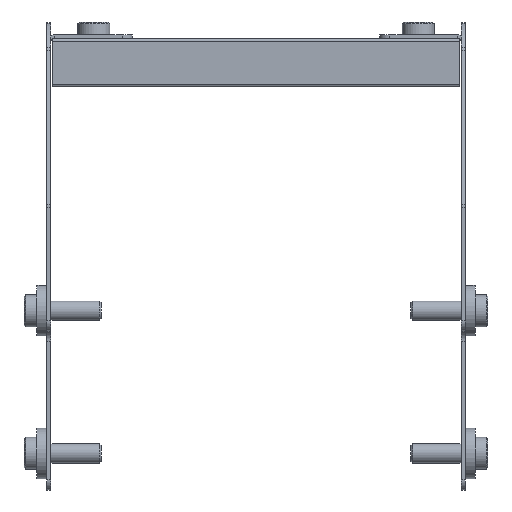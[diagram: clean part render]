
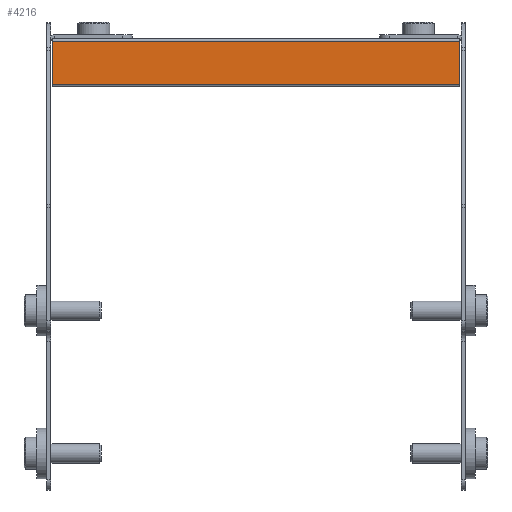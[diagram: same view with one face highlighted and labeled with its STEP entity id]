
A CAD part, front view. The second image highlights one B-rep face of the part: STEP entity #4216.
In plain terms, the highlighted planar face has unit normal (0, -1, 0) as drawn and (1, 0, 0) by its records, which use the part's own axes.
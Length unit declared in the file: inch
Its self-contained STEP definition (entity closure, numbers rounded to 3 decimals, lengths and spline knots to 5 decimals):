
#2733=DIRECTION('',(0.,-1.,0.));
#2734=VECTOR('',#2733,0.53055);
#2735=CARTESIAN_POINT('',(0.78127,0.26528,-2.5));
#2736=LINE('',#2735,#2734);
#3110=DIRECTION('',(0.,0.,1.));
#3111=VECTOR('',#3110,5.);
#3112=CARTESIAN_POINT('',(0.78127,-0.26528,-2.5));
#3113=LINE('',#3112,#3111);
#3118=DIRECTION('',(0.,-1.,0.));
#3119=VECTOR('',#3118,0.53055);
#3120=CARTESIAN_POINT('',(0.78127,0.26528,2.5));
#3121=LINE('',#3120,#3119);
#3126=DIRECTION('',(0.,0.,-1.));
#3127=VECTOR('',#3126,5.);
#3128=CARTESIAN_POINT('',(0.78127,0.26528,2.5));
#3129=LINE('',#3128,#3127);
#3414=CARTESIAN_POINT('',(0.78127,0.26528,2.5));
#3416=VERTEX_POINT('',#3414);
#3473=CARTESIAN_POINT('',(0.78127,0.26528,-2.5));
#3474=VERTEX_POINT('',#3473);
#3558=CARTESIAN_POINT('',(0.78127,-0.26528,-2.5));
#3559=VERTEX_POINT('',#3558);
#3598=CARTESIAN_POINT('',(0.78127,-0.26528,2.5));
#3599=VERTEX_POINT('',#3598);
#4204=CARTESIAN_POINT('',(0.78127,0.29528,2.5));
#4205=DIRECTION('',(-1.,0.,0.));
#4206=DIRECTION('',(0.,0.,1.));
#4207=AXIS2_PLACEMENT_3D('',#4204,#4205,#4206);
#4208=PLANE('',#4207);
#4209=ORIENTED_EDGE('',*,*,#3644,.F.);
#4211=ORIENTED_EDGE('',*,*,#4210,.T.);
#4212=ORIENTED_EDGE('',*,*,#3848,.T.);
#4213=ORIENTED_EDGE('',*,*,#4197,.T.);
#4214=EDGE_LOOP('',(#4209,#4211,#4212,#4213));
#4215=FACE_OUTER_BOUND('',#4214,.F.);
#3644=EDGE_CURVE('',#3416,#3599,#3121,.T.);
#3848=EDGE_CURVE('',#3474,#3559,#2736,.T.);
#4197=EDGE_CURVE('',#3559,#3599,#3113,.T.);
#4210=EDGE_CURVE('',#3416,#3474,#3129,.T.);
#4216=ADVANCED_FACE('',(#4215),#4208,.F.);
